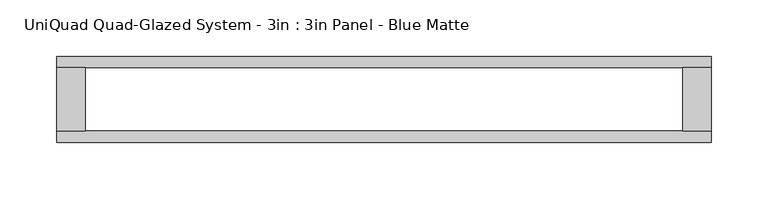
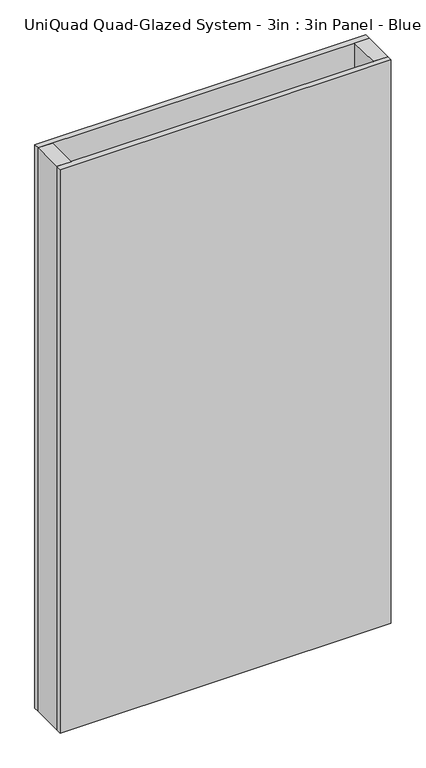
"""IFC4 building model written with IfcOpenShell, lengths in millimetres: plate geometry, UniQuad Quad-Glazed System - 3in : 3in Panel - Blue Matte."""

import ifcopenshell
import ifcopenshell.guid

model = None  # the IFC model being written
_history = None  # IfcOwnerHistory: only IFC2X3 demands one
_inside = {}  # id of a spatial element -> (the spatial element, [elements in it])
_under = {}  # id of a project, library or spatial element -> (it, [spatial elements below it])
_declared = {}  # id of a project -> (the project, [libraries it declares])
_typed = {}  # id of a type object -> (the type object, [elements of that type])
_made_of = {}  # id of a material, layer set ... -> (it, [elements and type objects made of it])


def new_model(schema):
    """Start an empty IFC model of exactly this schema.

    Asked for "IFC4X3", IfcOpenShell would pick the latest addendum, in which some entities
    have other attributes; the version numbers below select the first issue.
    IFC2X3 requires an IfcOwnerHistory on every rooted entity: one is made here for all.
    """
    global model, _history
    if schema == "IFC4X3":
        model = ifcopenshell.file(schema_version=(4, 3, 0, 0))
    else:
        model = ifcopenshell.file(schema=schema)
    _inside.clear()
    _under.clear()
    _declared.clear()
    _typed.clear()
    _made_of.clear()
    _history = None
    if model.schema == "IFC2X3":
        org = make("IfcOrganization", Name="unknown")
        user = make(
            "IfcPersonAndOrganization",
            ThePerson=make("IfcPerson", FamilyName="unknown"),
            TheOrganization=org,
        )
        app = make(
            "IfcApplication",
            ApplicationDeveloper=org,
            Version="unknown",
            ApplicationFullName="unknown",
            ApplicationIdentifier="unknown",
        )
        _history = make(
            "IfcOwnerHistory",
            OwningUser=user,
            OwningApplication=app,
            ChangeAction="ADDED",
            CreationDate=0,
        )
    return model


def make(cls, **values):
    """One entity of the class cls with the attributes given. An attribute that is None is left unset."""
    return model.create_entity(
        cls, **{name: value for name, value in values.items() if value is not None}
    )


def rooted(cls, **values):
    """An entity with a GlobalId (a new one), such as an element, a storey or a relation."""
    return make(cls, GlobalId=ifcopenshell.guid.new(), OwnerHistory=_history, **values)


def si_unit(unit_type, name, prefix=None):
    """IfcSIUnit, for example si_unit("LENGTHUNIT", "METRE", prefix="MILLI")."""
    return make("IfcSIUnit", UnitType=unit_type, Prefix=prefix, Name=name)


def assignment(units):
    """IfcUnitAssignment: the units of a project."""
    return None if units is None else make("IfcUnitAssignment", Units=units)


def point(xyz):
    """IfcCartesianPoint."""
    return None if xyz is None else make("IfcCartesianPoint", Coordinates=xyz)


def direction(xyz):
    """IfcDirection."""
    return None if xyz is None else make("IfcDirection", DirectionRatios=xyz)


def frame(location, z_axis=None, x_axis=None):
    """IfcAxis2Placement3D, a coordinate frame: its origin and axes. An axis left out is left unset."""
    return make(
        "IfcAxis2Placement3D",
        Location=point(location),
        Axis=direction(z_axis),
        RefDirection=direction(x_axis),
    )


def origin():
    """The frame at (0, 0, 0) with its axes left unset."""
    return frame((0.0, 0.0, 0.0))


def origin_with_axes():
    """The frame at (0, 0, 0) with the z axis (0, 0, 1) and the x axis (1, 0, 0) written out."""
    return frame((0.0, 0.0, 0.0), z_axis=(0.0, 0.0, 1.0), x_axis=(1.0, 0.0, 0.0))


def place(relative_to, where):
    """IfcLocalPlacement: puts the frame where relative to a parent placement (None: the world)."""
    return make(
        "IfcLocalPlacement", PlacementRelTo=relative_to, RelativePlacement=where
    )


def context(
    kind, dimensions, precision=None, world=None, true_north=None, identifier=None
):
    """IfcGeometricRepresentationContext, for example the 3D "Model" context."""
    return make(
        "IfcGeometricRepresentationContext",
        ContextIdentifier=identifier,
        ContextType=kind,
        CoordinateSpaceDimension=dimensions,
        Precision=precision,
        WorldCoordinateSystem=world,
        TrueNorth=true_north,
    )


def project(units=None, contexts=None):
    """IfcProject with its units and contexts."""
    return rooted(
        "IfcProject",
        Name="project",
        RepresentationContexts=contexts,
        UnitsInContext=assignment(units),
    )


def spatial(cls, under=None, at=None, **own):
    """A site, building, storey or space (cls), placed at a placement, below another one or the project."""
    s = rooted(cls, ObjectPlacement=at, **own)
    if under is not None:
        _under.setdefault(under.id(), (under, []))[1].append(s)
    return s


def polyline(points):
    """IfcPolyline through the points."""
    return make("IfcPolyline", Points=[point(p) for p in points])


def outline(outer, holes=None, kind="AREA"):
    """IfcArbitraryClosedProfileDef: a profile drawn as a closed curve; with holes, ...WithVoids."""
    if holes is None:
        return make("IfcArbitraryClosedProfileDef", ProfileType=kind, OuterCurve=outer)
    return make(
        "IfcArbitraryProfileDefWithVoids",
        ProfileType=kind,
        OuterCurve=outer,
        InnerCurves=holes,
    )


def extrude(swept, where, along, depth):
    """IfcExtrudedAreaSolid: the profile swept, set in the frame where, extruded along a direction by depth."""
    return make(
        "IfcExtrudedAreaSolid",
        SweptArea=swept,
        Position=where,
        ExtrudedDirection=direction(along),
        Depth=depth,
    )


def shape(context_of_items, identifier, shape_type, items):
    """IfcShapeRepresentation: the items that make up one representation, for example the "Body"."""
    return make(
        "IfcShapeRepresentation",
        ContextOfItems=context_of_items,
        RepresentationIdentifier=identifier,
        RepresentationType=shape_type,
        Items=items,
    )


def source(mapping_origin, context_of_items, identifier, shape_type, items):
    """IfcRepresentationMap: a shape defined once, which mapped items show again and again."""
    return make(
        "IfcRepresentationMap",
        MappingOrigin=mapping_origin,
        MappedRepresentation=shape(context_of_items, identifier, shape_type, items),
    )


def transform(
    local_origin,
    x_axis=None,
    y_axis=None,
    z_axis=None,
    scale=None,
    scale2=None,
    scale3=None,
    uniform=True,
):
    """IfcCartesianTransformationOperator3D, or its non-uniform kind. x_axis, y_axis, z_axis: its Axis1, 2, 3."""
    if uniform:
        return make(
            "IfcCartesianTransformationOperator3D",
            Axis1=direction(x_axis),
            Axis2=direction(y_axis),
            LocalOrigin=point(local_origin),
            Scale=scale,
            Axis3=direction(z_axis),
        )
    return make(
        "IfcCartesianTransformationOperator3DnonUniform",
        Axis1=direction(x_axis),
        Axis2=direction(y_axis),
        LocalOrigin=point(local_origin),
        Scale=scale,
        Axis3=direction(z_axis),
        Scale2=scale2,
        Scale3=scale3,
    )


def mapped(mapping_source, mapping_target):
    """IfcMappedItem: shows the shape of a source again, moved by a transform."""
    return make(
        "IfcMappedItem", MappingSource=mapping_source, MappingTarget=mapping_target
    )


def made_of(thing, what):
    """Note that an element or type object is made of a material, layer set ...; save() writes the relation."""
    if what is not None:
        _made_of.setdefault(what.id(), (what, []))[1].append(thing)
    return thing


def element(
    cls,
    number,
    at=None,
    inside=None,
    cuts=None,
    type_object=None,
    material=None,
    context=None,
    identifier="Body",
    shape_type=None,
    held_by="IfcProductDefinitionShape",
    body=None,
    shapes=None,
    **own,
):
    """One element of the class cls, such as IfcWall. Its Tag is "e" and its number.

    at: its placement. inside: the storey or other place that contains it. cuts: it is an
    opening in that element (IfcRelVoidsElement). A single representation is given by context,
    identifier, shape_type and body (its items); several are given by shapes. held_by: the class
    of the entity that holds the representations. save() writes the other relations.
    """
    e = rooted(cls, Tag="e%d" % number, ObjectPlacement=at, **own)
    if body is not None:
        shapes = [shape(context, identifier, shape_type, body)]
    if shapes is not None:
        e.Representation = make(held_by, Representations=shapes)
    if inside is not None:
        _inside.setdefault(inside.id(), (inside, []))[1].append(e)
    if cuts is not None:
        rooted(
            "IfcRelVoidsElement", RelatingBuildingElement=cuts, RelatedOpeningElement=e
        )
    if type_object is not None:
        _typed.setdefault(type_object.id(), (type_object, []))[1].append(e)
    return made_of(e, material)


def aggregate(whole, parts):
    """IfcRelAggregates: a whole, such as a stair, and the parts it consists of."""
    return rooted("IfcRelAggregates", RelatingObject=whole, RelatedObjects=parts)


def save(model, path):
    """Write the relations noted so far, then the file.

    IfcRelAggregates (storeys below a building ...), IfcRelContainedInSpatialStructure (elements
    in a storey), IfcRelDefinesByType, IfcRelAssociatesMaterial and IfcRelDeclares: one each for
    every whole, place, type object, material and project.
    """
    for whole, parts in _under.values():
        aggregate(whole, parts)
    for where, things in _inside.values():
        rooted(
            "IfcRelContainedInSpatialStructure",
            RelatedElements=things,
            RelatingStructure=where,
        )
    for kind, things in _typed.values():
        rooted("IfcRelDefinesByType", RelatedObjects=things, RelatingType=kind)
    for what, things in _made_of.values():
        rooted("IfcRelAssociatesMaterial", RelatedObjects=things, RelatingMaterial=what)
    for by, libraries in _declared.values():
        rooted("IfcRelDeclares", RelatingContext=by, RelatedDefinitions=libraries)
    model.write(path)


def uniquad_quad_glazed_system_3in_3in_panel_blue_matte_152e314e(model_context):
    return source(origin(), model_context, "Body", "SweptSolid", [
        extrude(outline(polyline([(289.5984693, 28.0924), (289.5984693, -28.0924), (264.1984693, -28.0924), (264.1984693, 28.0924), (289.5984693, 28.0924)])), origin_with_axes(), (0.0, 0.0, 1.0), 1041.4),
        extrude(outline(polyline([(-289.5984693, 28.0924), (-264.1984693, 28.0924), (-264.1984693, -28.0924), (-289.5984693, -28.0924), (-289.5984693, 28.0924)])), origin_with_axes(), (0.0, 0.0, 1.0), 1041.4),
        extrude(outline(polyline([(289.5984693, -28.0924), (289.5984693, -38.1), (-289.5984693, -38.1), (-289.5984693, -28.0924), (289.5984693, -28.0924)])), origin_with_axes(), (0.0, 0.0, 1.0), 1041.4),
        extrude(outline(polyline([(289.5984693, 38.1), (289.5984693, 28.0924), (-289.5984693, 28.0924), (-289.5984693, 38.1), (289.5984693, 38.1)])), origin_with_axes(), (0.0, 0.0, 1.0), 1041.4),
    ])


if __name__ == "__main__":
    model = new_model("IFC4")
    model_context = context("Model", 3, world=origin())
    ifc_project = project(units=[si_unit("LENGTHUNIT", "METRE", prefix="MILLI")], contexts=[model_context])
    site = spatial("IfcSite", under=ifc_project)
    building = spatial("IfcBuilding", under=site)
    placement = place(None, origin())
    uniquad_quad_glazed_system_3in_3in_panel_blue_matte_shape = uniquad_quad_glazed_system_3in_3in_panel_blue_matte_152e314e(model_context)
    element("IfcPlate", 1, ObjectType="UniQuad Quad-Glazed System - 3in : 3in Panel - Blue Matte", at=placement, inside=building, context=model_context, shape_type="MappedRepresentation", body=[
        mapped(uniquad_quad_glazed_system_3in_3in_panel_blue_matte_shape, transform((0.0, 0.0, 0.0), x_axis=(1.0, 0.0, 0.0), y_axis=(0.0, 1.0, 0.0), z_axis=(0.0, 0.0, 1.0))),
    ])
    save(model, "model.ifc")
